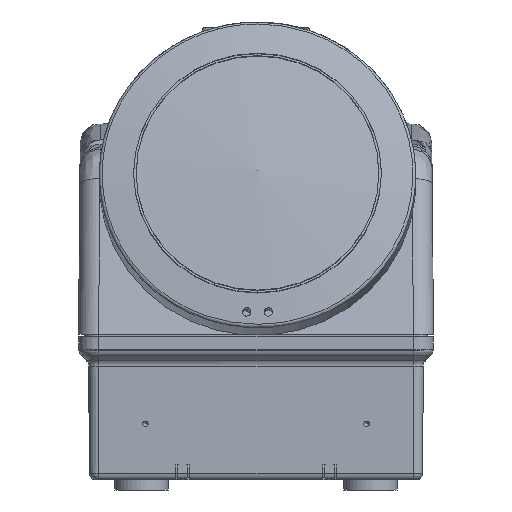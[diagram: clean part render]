
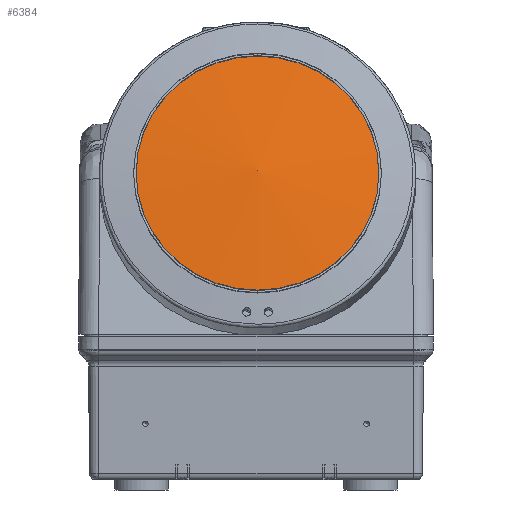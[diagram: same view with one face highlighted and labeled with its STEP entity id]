
A CAD part, front view. The second image highlights one B-rep face of the part: STEP entity #6384.
In plain terms, the highlighted spherical face has radius 297 mm.
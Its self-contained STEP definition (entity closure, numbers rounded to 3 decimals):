
#64=SPHERICAL_SURFACE('',#27336,297.);
#6384=ADVANCED_FACE('',(#8025),#64,.T.);
#8025=FACE_OUTER_BOUND('',#9704,.T.);
#9704=EDGE_LOOP('',(#17024));
#10665=CIRCLE('',#27285,36.25);
#17024=ORIENTED_EDGE('',*,*,#23689,.F.);
#20238=VERTEX_POINT('',#55623);
#23689=EDGE_CURVE('',#20238,#20238,#10665,.T.);
#27285=AXIS2_PLACEMENT_3D('',#55622,#32928,#32929);
#27336=AXIS2_PLACEMENT_3D('',#55952,#33033,#33034);
#32928=DIRECTION('',(0.,0.966,-0.259));
#32929=DIRECTION('',(0.,0.259,0.966));
#33033=DIRECTION('',(0.,0.966,-0.259));
#33034=DIRECTION('',(0.,-0.259,-0.966));
#55622=CARTESIAN_POINT('',(53.45,-15.118,48.955));
#55623=CARTESIAN_POINT('',(53.45,-5.736,83.97));
#55952=CARTESIAN_POINT('',(53.45,269.617,-27.339));
